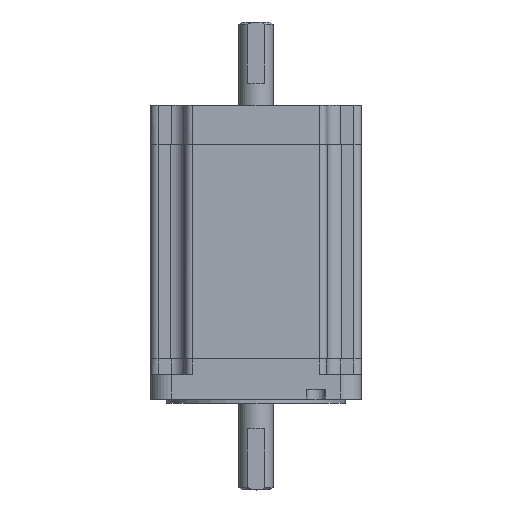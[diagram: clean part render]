
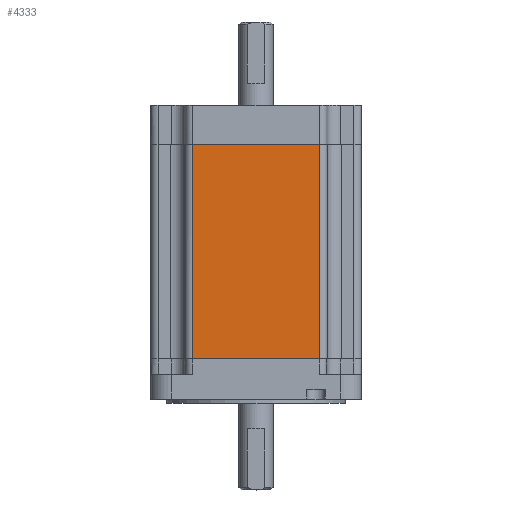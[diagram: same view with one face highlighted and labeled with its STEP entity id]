
A CAD part, top view. The second image highlights one B-rep face of the part: STEP entity #4333.
In plain terms, the highlighted planar face has unit normal (0, 0, 1).
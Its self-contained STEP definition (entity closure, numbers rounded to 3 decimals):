
#3167=CARTESIAN_POINT('',(26.1,-104.925,42.93));
#3168=VERTEX_POINT('',#3167);
#3176=CARTESIAN_POINT('',(-26.1,-104.925,42.93));
#3177=VERTEX_POINT('',#3176);
#3178=CARTESIAN_POINT('',(-26.1,-104.925,42.93));
#3179=DIRECTION('',(1.,0.,0.));
#3180=VECTOR('',#3179,52.2);
#3181=LINE('',#3178,#3180);
#3182=EDGE_CURVE('',#3177,#3168,#3181,.T.);
#4282=CARTESIAN_POINT('',(-26.1,-17.425,42.93));
#4283=VERTEX_POINT('',#4282);
#4284=CARTESIAN_POINT('',(-26.1,-17.425,42.93));
#4285=DIRECTION('',(0.,-1.,0.));
#4286=VECTOR('',#4285,87.5);
#4287=LINE('',#4284,#4286);
#4288=EDGE_CURVE('',#4283,#3177,#4287,.T.);
#4310=CARTESIAN_POINT('',(0.,-18.175,42.93));
#4311=DIRECTION('',(-1.,0.,0.));
#4312=DIRECTION('',(0.,0.,1.));
#4313=AXIS2_PLACEMENT_3D('',#4310,#4312,#4311);
#4314=PLANE('',#4313);
#4315=ORIENTED_EDGE('',*,*,#3182,.T.);
#4316=CARTESIAN_POINT('',(26.1,-17.425,42.93));
#4317=VERTEX_POINT('',#4316);
#4318=CARTESIAN_POINT('',(26.1,-17.425,42.93));
#4319=DIRECTION('',(0.,-1.,0.));
#4320=VECTOR('',#4319,87.5);
#4321=LINE('',#4318,#4320);
#4322=EDGE_CURVE('',#4317,#3168,#4321,.T.);
#4323=ORIENTED_EDGE('E522',*,*,#4322,.F.);
#4324=CARTESIAN_POINT('',(-26.1,-17.425,42.93));
#4325=DIRECTION('',(1.,0.,0.));
#4326=VECTOR('',#4325,52.2);
#4327=LINE('',#4324,#4326);
#4328=EDGE_CURVE('',#4283,#4317,#4327,.T.);
#4329=ORIENTED_EDGE('E231',*,*,#4328,.F.);
#4330=ORIENTED_EDGE('E231',*,*,#4288,.T.);
#4331=EDGE_LOOP('',(#4315,#4323,#4329,#4330));
#4332=FACE_OUTER_BOUND('',#4331,.T.);
#4333=ADVANCED_FACE('F383',(#4332),#4314,.T.);
